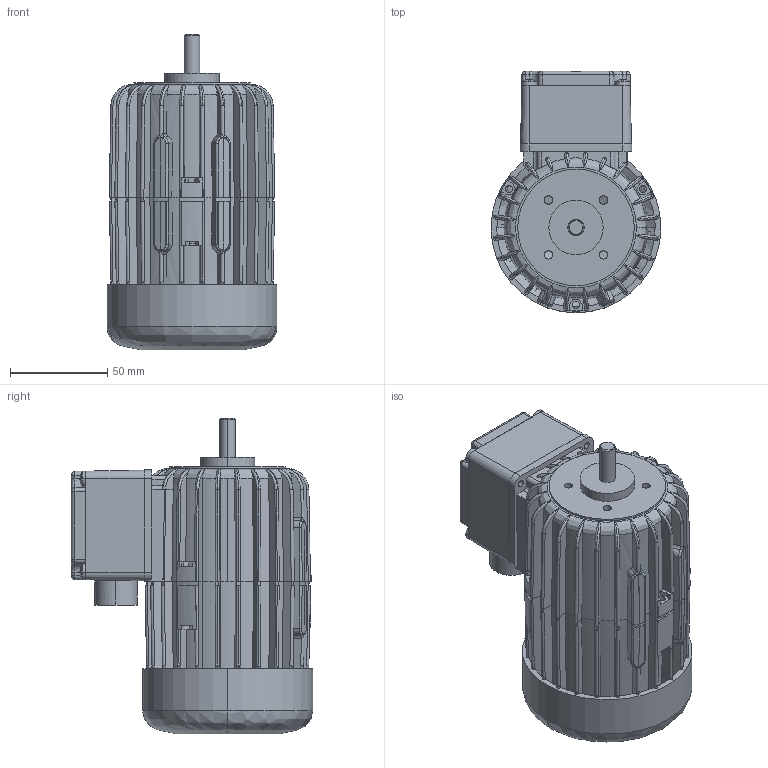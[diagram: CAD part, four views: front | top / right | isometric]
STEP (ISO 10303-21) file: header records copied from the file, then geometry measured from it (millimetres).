
FILE_DESCRIPTION (( 'STEP AP214' ), '1' );
FILE_NAME ('Dg7150-2.STEP', '2015-08-04T14:29:12', ( '' ), ( '' ), 'SwSTEP 2.0', 'SolidWorks 2014', '' );
FILE_SCHEMA (( 'AUTOMOTIVE_DESIGN' ));
Length unit declared in the file: millimetre
Products named in the file (1): Dg7150-2
Bounding box: 87.5 x 124.25 x 162.5 mm (x, y, z)
Surface area: 102181.7 mm2 (no closed solid volume)
Topology: 0 solids, 15 shells, 1010 faces, 3268 edges, 2244 vertices
Faces by surface type: cylinder 367, plane 338, bspline 207, cone 98
Entity records: 58819 total; most frequent: CARTESIAN_POINT 21866, ORIENTED_EDGE 5427, DIRECTION 4755, EDGE_CURVE 3267, VERTEX_POINT 2244, AXIS2_PLACEMENT_3D 1742, VECTOR 1271, LINE 1271
